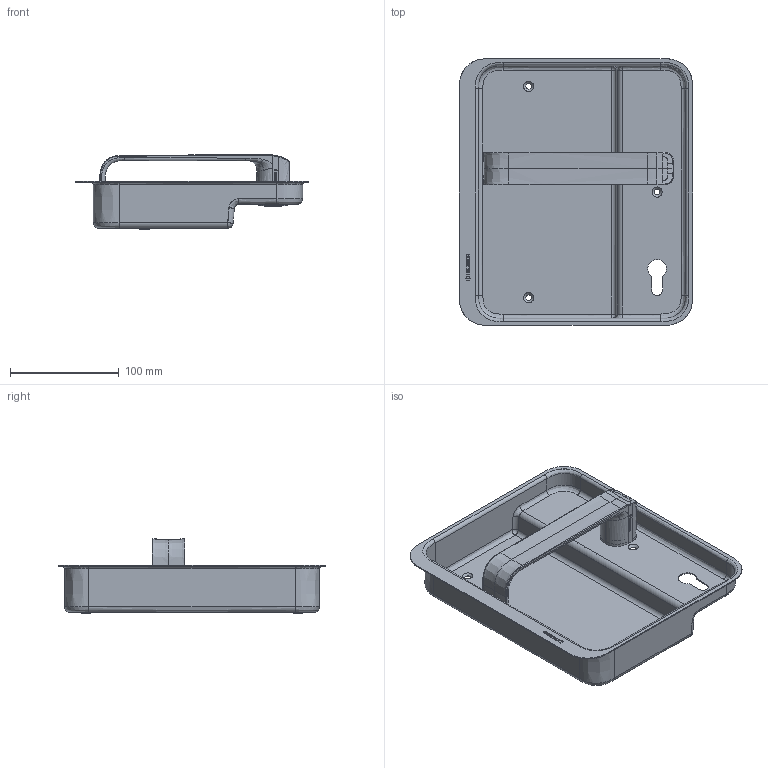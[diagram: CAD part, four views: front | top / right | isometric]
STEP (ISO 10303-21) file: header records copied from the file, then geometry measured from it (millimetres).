
FILE_DESCRIPTION(/* description */ (''),/* implementation_level */ '2;1');
FILE_NAME(/* name */ 'C:\ADSK_DMS_WS\Designs\Vorschläge\Loc Schalen\Muschel Serie 9\S9.42.D4Links\Heusser-Muschel S9.42.D4.392L.stp',/* time_stamp */ '2020-10-13T09:18:12+02:00',/* author */ ('gm'),/* organization */ (''),/* preprocessor_version */ 'ST-DEVELOPER v16.5',/* originating_system */ 'Autodesk Inventor 2017',/* authorisation */ '');
FILE_SCHEMA (('AUTOMOTIVE_DESIGN { 1 0 10303 214 3 1 1 }'));
Length unit declared in the file: millimetre
Products named in the file (1): S9.42.D4Links
Bounding box: 214 x 245 x 68.54 mm (x, y, z)
Volume: 131679.7 mm3; surface area: 181512.5 mm2
Topology: 1 solids, 2 shells, 627 faces, 1657 edges, 1074 vertices
Faces by surface type: plane 296, bspline 287, cylinder 26, cone 18
Full cylindrical faces by diameter (mm): 1.7 x2, 4.917 x1, 14.2 x1, 16 x3, 18 x1, 19 x1, 19.1 x1, 23 x1, 23.2 x1, 24 x1, 25 x1, 26 x1, 28 x1, 28.6 x1
Entity records: 32859 total; most frequent: CARTESIAN_POINT 18640, ORIENTED_EDGE 3214, DIRECTION 1945, EDGE_CURVE 1607, VERTEX_POINT 1063, LINE 913, VECTOR 913, EDGE_LOOP 724
